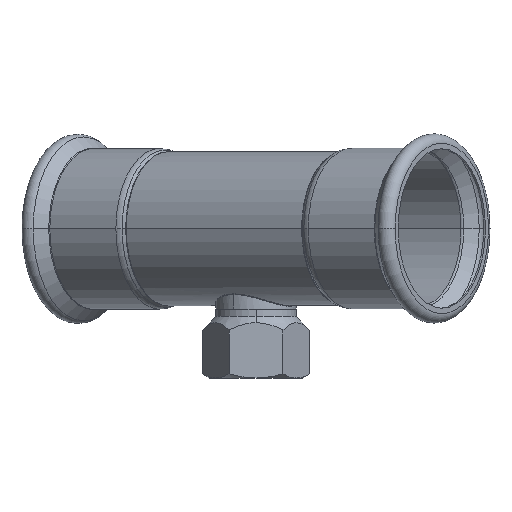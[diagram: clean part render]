
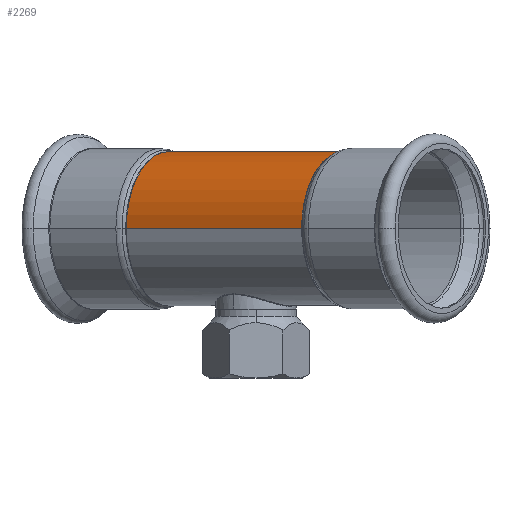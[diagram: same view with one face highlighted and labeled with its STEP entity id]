
A CAD part, top view. The second image highlights one B-rep face of the part: STEP entity #2269.
In plain terms, the highlighted cylindrical face has radius 53.5 mm (diameter 107 mm), a partial arc.
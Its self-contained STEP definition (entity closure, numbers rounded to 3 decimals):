
#134 = CARTESIAN_POINT ( 'NONE',  ( -72.868, 0., 0. ) ) ;
#143 = VERTEX_POINT ( 'NONE', #1053 ) ;
#148 = LINE ( 'NONE', #3148, #568 ) ;
#299 = DIRECTION ( 'NONE',  ( -1., 0., 0. ) ) ;
#403 = CARTESIAN_POINT ( 'NONE',  ( -72.868, 0., 53.5 ) ) ;
#524 = EDGE_CURVE ( 'NONE', #3763, #2315, #4179, .T. ) ;
#545 = ORIENTED_EDGE ( 'NONE', *, *, #4067, .F. ) ;
#568 = VECTOR ( 'NONE', #3133, 1000. ) ;
#625 = CARTESIAN_POINT ( 'NONE',  ( 27.146, 0., -53.5 ) ) ;
#687 = VERTEX_POINT ( 'NONE', #3098 ) ;
#713 = ORIENTED_EDGE ( 'NONE', *, *, #832, .T. ) ;
#828 = DIRECTION ( 'NONE',  ( 0., 0., 1. ) ) ;
#832 = EDGE_CURVE ( 'NONE', #687, #2315, #148, .T. ) ;
#1053 = CARTESIAN_POINT ( 'NONE',  ( 72.868, 0., -53.5 ) ) ;
#1077 = CYLINDRICAL_SURFACE ( 'NONE', #2853, 53.5 ) ;
#1090 = AXIS2_PLACEMENT_3D ( 'NONE', #3918, #3578, #4237 ) ;
#1261 = VECTOR ( 'NONE', #299, 1000. ) ;
#1633 = AXIS2_PLACEMENT_3D ( 'NONE', #134, #3547, #828 ) ;
#1672 = LINE ( 'NONE', #625, #1261 ) ;
#1698 = CIRCLE ( 'NONE', #1090, 53.5 ) ;
#1974 = EDGE_CURVE ( 'NONE', #143, #687, #1698, .T. ) ;
#2094 = DIRECTION ( 'NONE',  ( 0., 0., 1. ) ) ;
#2136 = FACE_OUTER_BOUND ( 'NONE', #3930, .T. ) ;
#2266 = ORIENTED_EDGE ( 'NONE', *, *, #524, .F. ) ;
#2269 = ADVANCED_FACE ( 'NONE', ( #2136 ), #1077, .T. ) ;
#2315 = VERTEX_POINT ( 'NONE', #403 ) ;
#2762 = DIRECTION ( 'NONE',  ( -1., 0., 0. ) ) ;
#2853 = AXIS2_PLACEMENT_3D ( 'NONE', #3502, #2762, #2094 ) ;
#3098 = CARTESIAN_POINT ( 'NONE',  ( 72.868, 0., 53.5 ) ) ;
#3133 = DIRECTION ( 'NONE',  ( -1., 0., 0. ) ) ;
#3148 = CARTESIAN_POINT ( 'NONE',  ( 27.146, 0., 53.5 ) ) ;
#3274 = CARTESIAN_POINT ( 'NONE',  ( -72.868, 0., -53.5 ) ) ;
#3502 = CARTESIAN_POINT ( 'NONE',  ( 27.146, 0., 0. ) ) ;
#3547 = DIRECTION ( 'NONE',  ( -1., 0., 0. ) ) ;
#3564 = ORIENTED_EDGE ( 'NONE', *, *, #1974, .T. ) ;
#3578 = DIRECTION ( 'NONE',  ( -1., 0., 0. ) ) ;
#3763 = VERTEX_POINT ( 'NONE', #3274 ) ;
#3918 = CARTESIAN_POINT ( 'NONE',  ( 72.868, 0., 0. ) ) ;
#3930 = EDGE_LOOP ( 'NONE', ( #545, #3564, #713, #2266 ) ) ;
#4067 = EDGE_CURVE ( 'NONE', #143, #3763, #1672, .T. ) ;
#4179 = CIRCLE ( 'NONE', #1633, 53.5 ) ;
#4237 = DIRECTION ( 'NONE',  ( 0., 0., 1. ) ) ;
